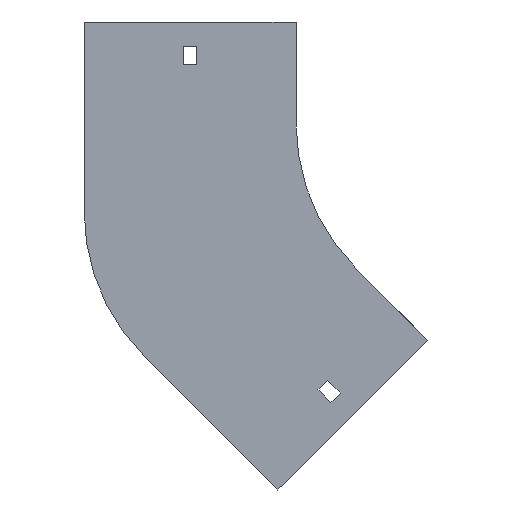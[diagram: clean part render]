
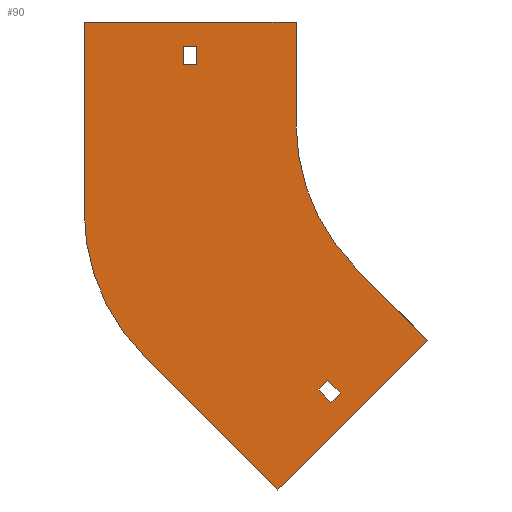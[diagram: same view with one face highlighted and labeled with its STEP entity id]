
A CAD part, front view. The second image highlights one B-rep face of the part: STEP entity #90.
In plain terms, the highlighted planar face has unit normal (0, -1, 0).
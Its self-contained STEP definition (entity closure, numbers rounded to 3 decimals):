
#11 = DIRECTION ( 'NONE',  ( 0., 0., 1. ) ) ;
#15 = ORIENTED_EDGE ( 'NONE', *, *, #501, .T. ) ;
#33 = EDGE_CURVE ( 'NONE', #1126, #385, #40, .T. ) ;
#34 = ORIENTED_EDGE ( 'NONE', *, *, #707, .F. ) ;
#40 = LINE ( 'NONE', #1226, #1331 ) ;
#43 = CIRCLE ( 'NONE', #155, 100. ) ;
#56 = EDGE_CURVE ( 'NONE', #555, #781, #1024, .T. ) ;
#71 = LINE ( 'NONE', #1158, #1241 ) ;
#84 = DIRECTION ( 'NONE',  ( 0., 0., 1. ) ) ;
#90 = ADVANCED_FACE ( 'NONE', ( #252, #685, #1124 ), #151, .T. ) ;
#104 = CARTESIAN_POINT ( 'NONE',  ( -155.25, 0., 29. ) ) ;
#109 = LINE ( 'NONE', #978, #307 ) ;
#110 = VERTEX_POINT ( 'NONE', #1327 ) ;
#121 = CARTESIAN_POINT ( 'NONE',  ( -148.75, 0., 29. ) ) ;
#128 = VERTEX_POINT ( 'NONE', #617 ) ;
#139 = EDGE_CURVE ( 'NONE', #857, #555, #71, .T. ) ;
#151 = PLANE ( 'NONE',  #1061 ) ;
#155 = AXIS2_PLACEMENT_3D ( 'NONE', #477, #1139, #380 ) ;
#161 = CARTESIAN_POINT ( 'NONE',  ( -100., 0., 0. ) ) ;
#166 = CARTESIAN_POINT ( 'NONE',  ( -155.25, 0., 29. ) ) ;
#171 = CIRCLE ( 'NONE', #763, 100. ) ;
#177 = LINE ( 'NONE', #614, #373 ) ;
#188 = ORIENTED_EDGE ( 'NONE', *, *, #1188, .T. ) ;
#201 = CARTESIAN_POINT ( 'NONE',  ( -78.312, 0., -132.052 ) ) ;
#208 = CARTESIAN_POINT ( 'NONE',  ( -100., 0., 50. ) ) ;
#209 = DIRECTION ( 'NONE',  ( 0., 0., -1. ) ) ;
#240 = ORIENTED_EDGE ( 'NONE', *, *, #1392, .F. ) ;
#246 = DIRECTION ( 'NONE',  ( -0.707, 0., -0.707 ) ) ;
#252 = FACE_BOUND ( 'NONE', #873, .T. ) ;
#256 = CARTESIAN_POINT ( 'NONE',  ( -70.711, 0., -70.711 ) ) ;
#260 = DIRECTION ( 'NONE',  ( 0., -1., 0. ) ) ;
#264 = VECTOR ( 'NONE', #513, 1000. ) ;
#267 = DIRECTION ( 'NONE',  ( 0.707, 0., -0.707 ) ) ;
#290 = VERTEX_POINT ( 'NONE', #383 ) ;
#299 = EDGE_CURVE ( 'NONE', #110, #906, #887, .T. ) ;
#307 = VECTOR ( 'NONE', #11, 1000. ) ;
#315 = CARTESIAN_POINT ( 'NONE',  ( -204., 0., 50. ) ) ;
#321 = ORIENTED_EDGE ( 'NONE', *, *, #139, .T. ) ;
#365 = VERTEX_POINT ( 'NONE', #1318 ) ;
#366 = DIRECTION ( 'NONE',  ( 0., 0., -1. ) ) ;
#373 = VECTOR ( 'NONE', #1047, 1000. ) ;
#380 = DIRECTION ( 'NONE',  ( 0., 0., 1. ) ) ;
#381 = EDGE_CURVE ( 'NONE', #128, #446, #1086, .T. ) ;
#383 = CARTESIAN_POINT ( 'NONE',  ( -174.711, 0., -113.789 ) ) ;
#385 = VERTEX_POINT ( 'NONE', #1349 ) ;
#394 = LINE ( 'NONE', #256, #469 ) ;
#413 = LINE ( 'NONE', #523, #264 ) ;
#424 = LINE ( 'NONE', #315, #1102 ) ;
#431 = DIRECTION ( 'NONE',  ( 0., -1., 0. ) ) ;
#446 = VERTEX_POINT ( 'NONE', #161 ) ;
#467 = DIRECTION ( 'NONE',  ( 1., 0., 0. ) ) ;
#469 = VECTOR ( 'NONE', #267, 1000. ) ;
#477 = CARTESIAN_POINT ( 'NONE',  ( -104., 0., -43.078 ) ) ;
#480 = EDGE_LOOP ( 'NONE', ( #34, #240, #959, #1088, #777, #897, #1206, #894 ) ) ;
#500 = LINE ( 'NONE', #166, #1078 ) ;
#501 = EDGE_CURVE ( 'NONE', #781, #678, #1235, .T. ) ;
#503 = VERTEX_POINT ( 'NONE', #796 ) ;
#513 = DIRECTION ( 'NONE',  ( -0.707, 0., 0.707 ) ) ;
#523 = CARTESIAN_POINT ( 'NONE',  ( -84.676, 0., -125.688 ) ) ;
#540 = CARTESIAN_POINT ( 'NONE',  ( -82.908, 0., -136.648 ) ) ;
#541 = CARTESIAN_POINT ( 'NONE',  ( 0., 0., 0. ) ) ;
#555 = VERTEX_POINT ( 'NONE', #930 ) ;
#569 = DIRECTION ( 'NONE',  ( 0.707, 0., 0.707 ) ) ;
#580 = CARTESIAN_POINT ( 'NONE',  ( 0., 0., 0. ) ) ;
#590 = EDGE_CURVE ( 'NONE', #503, #290, #177, .T. ) ;
#614 = CARTESIAN_POINT ( 'NONE',  ( -108.894, 0., -179.605 ) ) ;
#617 = CARTESIAN_POINT ( 'NONE',  ( -100., 0., 50. ) ) ;
#637 = CARTESIAN_POINT ( 'NONE',  ( -204., 0., -43.078 ) ) ;
#646 = VECTOR ( 'NONE', #1107, 1000. ) ;
#652 = ORIENTED_EDGE ( 'NONE', *, *, #33, .F. ) ;
#664 = VECTOR ( 'NONE', #467, 1000. ) ;
#678 = VERTEX_POINT ( 'NONE', #121 ) ;
#682 = CARTESIAN_POINT ( 'NONE',  ( -148.75, 0., 29. ) ) ;
#685 = FACE_OUTER_BOUND ( 'NONE', #480, .T. ) ;
#707 = EDGE_CURVE ( 'NONE', #365, #128, #424, .T. ) ;
#755 = VECTOR ( 'NONE', #569, 1000. ) ;
#757 = VECTOR ( 'NONE', #1198, 1000. ) ;
#763 = AXIS2_PLACEMENT_3D ( 'NONE', #541, #431, #209 ) ;
#777 = ORIENTED_EDGE ( 'NONE', *, *, #1004, .F. ) ;
#781 = VERTEX_POINT ( 'NONE', #874 ) ;
#786 = VECTOR ( 'NONE', #1301, 1000. ) ;
#787 = ORIENTED_EDGE ( 'NONE', *, *, #958, .F. ) ;
#790 = VERTEX_POINT ( 'NONE', #1297 ) ;
#796 = CARTESIAN_POINT ( 'NONE',  ( -108.894, 0., -179.605 ) ) ;
#818 = ORIENTED_EDGE ( 'NONE', *, *, #299, .F. ) ;
#857 = VERTEX_POINT ( 'NONE', #104 ) ;
#862 = CARTESIAN_POINT ( 'NONE',  ( -89.272, 0., -130.284 ) ) ;
#870 = VECTOR ( 'NONE', #366, 1000. ) ;
#873 = EDGE_LOOP ( 'NONE', ( #321, #962, #15, #188 ) ) ;
#874 = CARTESIAN_POINT ( 'NONE',  ( -148.75, 0., 38. ) ) ;
#887 = LINE ( 'NONE', #540, #755 ) ;
#894 = ORIENTED_EDGE ( 'NONE', *, *, #381, .F. ) ;
#897 = ORIENTED_EDGE ( 'NONE', *, *, #1149, .F. ) ;
#906 = VERTEX_POINT ( 'NONE', #201 ) ;
#911 = CARTESIAN_POINT ( 'NONE',  ( -155.25, 0., 38. ) ) ;
#915 = CARTESIAN_POINT ( 'NONE',  ( -35.355, 0., -106.066 ) ) ;
#930 = CARTESIAN_POINT ( 'NONE',  ( -155.25, 0., 38. ) ) ;
#958 = EDGE_CURVE ( 'NONE', #385, #110, #1254, .T. ) ;
#959 = ORIENTED_EDGE ( 'NONE', *, *, #1181, .F. ) ;
#962 = ORIENTED_EDGE ( 'NONE', *, *, #56, .T. ) ;
#978 = CARTESIAN_POINT ( 'NONE',  ( -204., 0., -43.078 ) ) ;
#1004 = EDGE_CURVE ( 'NONE', #1189, #503, #1087, .T. ) ;
#1024 = LINE ( 'NONE', #911, #664 ) ;
#1035 = DIRECTION ( 'NONE',  ( -1., 0., 0. ) ) ;
#1047 = DIRECTION ( 'NONE',  ( -0.707, 0., 0.707 ) ) ;
#1061 = AXIS2_PLACEMENT_3D ( 'NONE', #580, #260, #1239 ) ;
#1078 = VECTOR ( 'NONE', #1035, 1000. ) ;
#1086 = LINE ( 'NONE', #208, #757 ) ;
#1087 = LINE ( 'NONE', #1099, #646 ) ;
#1088 = ORIENTED_EDGE ( 'NONE', *, *, #590, .F. ) ;
#1099 = CARTESIAN_POINT ( 'NONE',  ( -35.355, 0., -106.066 ) ) ;
#1102 = VECTOR ( 'NONE', #1187, 1000. ) ;
#1107 = DIRECTION ( 'NONE',  ( -0.707, 0., -0.707 ) ) ;
#1124 = FACE_BOUND ( 'NONE', #1276, .T. ) ;
#1126 = VERTEX_POINT ( 'NONE', #1266 ) ;
#1139 = DIRECTION ( 'NONE',  ( 0., 1., 0. ) ) ;
#1149 = EDGE_CURVE ( 'NONE', #790, #1189, #394, .T. ) ;
#1158 = CARTESIAN_POINT ( 'NONE',  ( -155.25, 0., 29. ) ) ;
#1181 = EDGE_CURVE ( 'NONE', #290, #1302, #43, .T. ) ;
#1187 = DIRECTION ( 'NONE',  ( 1., 0., 0. ) ) ;
#1188 = EDGE_CURVE ( 'NONE', #678, #857, #500, .T. ) ;
#1189 = VERTEX_POINT ( 'NONE', #915 ) ;
#1198 = DIRECTION ( 'NONE',  ( 0., 0., -1. ) ) ;
#1206 = ORIENTED_EDGE ( 'NONE', *, *, #1357, .F. ) ;
#1226 = CARTESIAN_POINT ( 'NONE',  ( -89.272, 0., -130.284 ) ) ;
#1235 = LINE ( 'NONE', #682, #870 ) ;
#1239 = DIRECTION ( 'NONE',  ( 0., 0., -1. ) ) ;
#1241 = VECTOR ( 'NONE', #84, 1000. ) ;
#1254 = LINE ( 'NONE', #862, #786 ) ;
#1266 = CARTESIAN_POINT ( 'NONE',  ( -84.676, 0., -125.688 ) ) ;
#1273 = EDGE_CURVE ( 'NONE', #906, #1126, #413, .T. ) ;
#1276 = EDGE_LOOP ( 'NONE', ( #818, #787, #652, #1365 ) ) ;
#1297 = CARTESIAN_POINT ( 'NONE',  ( -70.711, 0., -70.711 ) ) ;
#1301 = DIRECTION ( 'NONE',  ( 0.707, 0., -0.707 ) ) ;
#1302 = VERTEX_POINT ( 'NONE', #637 ) ;
#1318 = CARTESIAN_POINT ( 'NONE',  ( -204., 0., 50. ) ) ;
#1327 = CARTESIAN_POINT ( 'NONE',  ( -82.908, 0., -136.648 ) ) ;
#1331 = VECTOR ( 'NONE', #246, 1000. ) ;
#1349 = CARTESIAN_POINT ( 'NONE',  ( -89.272, 0., -130.284 ) ) ;
#1357 = EDGE_CURVE ( 'NONE', #446, #790, #171, .T. ) ;
#1365 = ORIENTED_EDGE ( 'NONE', *, *, #1273, .F. ) ;
#1392 = EDGE_CURVE ( 'NONE', #1302, #365, #109, .T. ) ;
